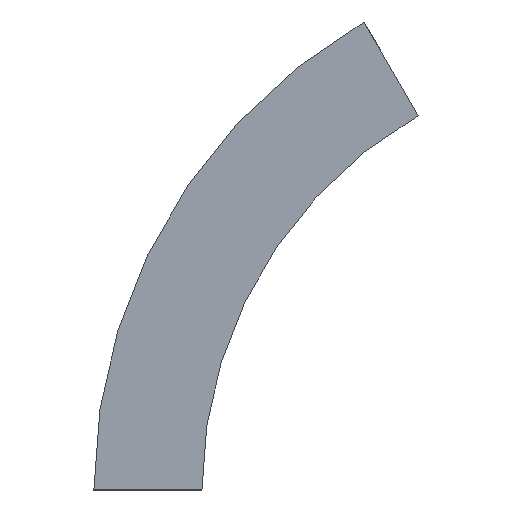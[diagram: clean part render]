
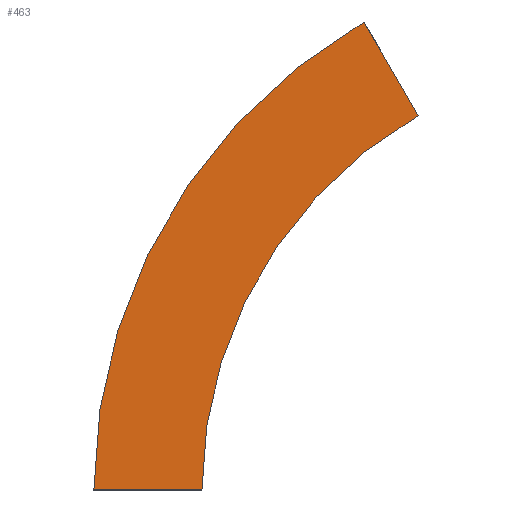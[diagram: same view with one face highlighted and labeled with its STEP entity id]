
A CAD part, left-side view. The second image highlights one B-rep face of the part: STEP entity #463.
In plain terms, the highlighted planar face has unit normal (-1, 0, 0) as drawn and (1, 0, 0) by its records, which use the part's own axes.
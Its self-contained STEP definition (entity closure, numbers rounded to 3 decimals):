
#50 = DIRECTION ( 'NONE',  ( 0., 1., 0. ) ) ;
#53 = LINE ( 'NONE', #507, #119 ) ;
#55 = CARTESIAN_POINT ( 'NONE',  ( 0., -300., 0. ) ) ;
#75 = CARTESIAN_POINT ( 'NONE',  ( 0., 75., 0. ) ) ;
#84 = ORIENTED_EDGE ( 'NONE', *, *, #427, .T. ) ;
#98 = DIRECTION ( 'NONE',  ( 0., 1., 0. ) ) ;
#106 = DIRECTION ( 'NONE',  ( 0., 1., 0. ) ) ;
#118 = DIRECTION ( 'NONE',  ( 0., 0., -1. ) ) ;
#119 = VECTOR ( 'NONE', #207, 1000. ) ;
#121 = ORIENTED_EDGE ( 'NONE', *, *, #485, .F. ) ;
#126 = CARTESIAN_POINT ( 'NONE',  ( 0., 0., 0. ) ) ;
#174 = EDGE_CURVE ( 'NONE', #392, #208, #535, .T. ) ;
#207 = DIRECTION ( 'NONE',  ( 0., 0.5, 0.866 ) ) ;
#208 = VERTEX_POINT ( 'NONE', #403 ) ;
#238 = EDGE_CURVE ( 'NONE', #372, #208, #53, .T. ) ;
#282 = FACE_OUTER_BOUND ( 'NONE', #324, .T. ) ;
#294 = CARTESIAN_POINT ( 'NONE',  ( 0., -150., 259.808 ) ) ;
#324 = EDGE_LOOP ( 'NONE', ( #433, #506, #121, #84 ) ) ;
#360 = AXIS2_PLACEMENT_3D ( 'NONE', #480, #406, #106 ) ;
#364 = CARTESIAN_POINT ( 'NONE',  ( 0., 0., 0. ) ) ;
#372 = VERTEX_POINT ( 'NONE', #294 ) ;
#384 = AXIS2_PLACEMENT_3D ( 'NONE', #364, #542, #118 ) ;
#387 = VERTEX_POINT ( 'NONE', #126 ) ;
#392 = VERTEX_POINT ( 'NONE', #75 ) ;
#395 = VECTOR ( 'NONE', #98, 1000. ) ;
#403 = CARTESIAN_POINT ( 'NONE',  ( 0., -112.5, 324.76 ) ) ;
#406 = DIRECTION ( 'NONE',  ( 1., 0., 0. ) ) ;
#417 = CARTESIAN_POINT ( 'NONE',  ( 0., 0., 0. ) ) ;
#419 = PLANE ( 'NONE',  #384 ) ;
#422 = DIRECTION ( 'NONE',  ( 1., 0., 0. ) ) ;
#427 = EDGE_CURVE ( 'NONE', #387, #392, #537, .T. ) ;
#433 = ORIENTED_EDGE ( 'NONE', *, *, #174, .T. ) ;
#438 = AXIS2_PLACEMENT_3D ( 'NONE', #55, #422, #50 ) ;
#463 = ADVANCED_FACE ( 'NONE', ( #282 ), #419, .T. ) ;
#480 = CARTESIAN_POINT ( 'NONE',  ( 0., -300., 0. ) ) ;
#485 = EDGE_CURVE ( 'NONE', #387, #372, #510, .T. ) ;
#506 = ORIENTED_EDGE ( 'NONE', *, *, #238, .F. ) ;
#507 = CARTESIAN_POINT ( 'NONE',  ( 0., -150., 259.808 ) ) ;
#510 = CIRCLE ( 'NONE', #438, 300. ) ;
#535 = CIRCLE ( 'NONE', #360, 375. ) ;
#537 = LINE ( 'NONE', #417, #395 ) ;
#542 = DIRECTION ( 'NONE',  ( 1., 0., 0. ) ) ;
